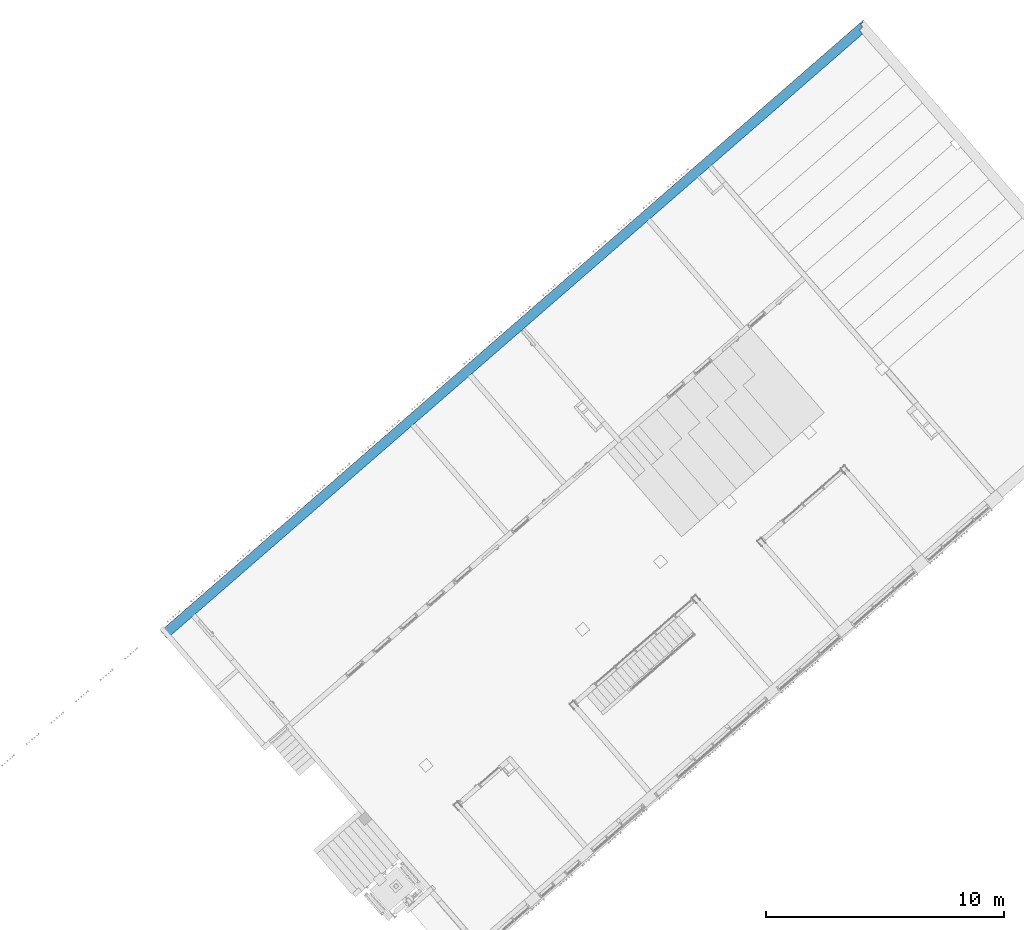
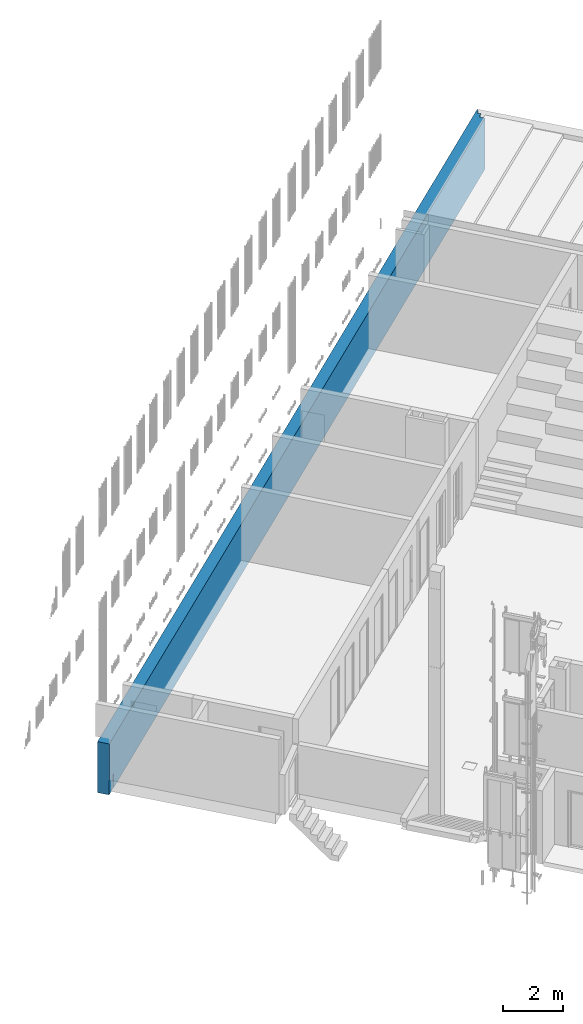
# One storey, part 56 of 124: 1 wall.
"""IFC2X3 building model written with IfcOpenShell, lengths in millimetres."""

from ifc_helpers import new_model, entity, si_unit, converted_unit, derived_unit, money_unit, direction, frame, origin_with_axes, place, context, subcontext, project, spatial, faceted_brep, material, material_list, type_object, element, save


model = new_model("IFC2X3")

# Units and contexts
model_context = context("Model", 3, precision=1e-05, world=origin_with_axes(), true_north=direction((0.0, 1.0)))
body_context = subcontext(model_context, "Body", "Model", "MODEL_VIEW")
ifc_project = project(units=[si_unit("LENGTHUNIT", "METRE", prefix="MILLI"), si_unit("AREAUNIT", "SQUARE_METRE"), si_unit("VOLUMEUNIT", "CUBIC_METRE"), converted_unit("PLANEANGLEUNIT", "DEGREE", entity("IfcPlaneAngleMeasure", 0.0174532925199), si_unit("PLANEANGLEUNIT", "RADIAN"), dimensions=[0, 0, 0, 0, 0, 0, 0]), si_unit("SOLIDANGLEUNIT", "STERADIAN"), money_unit("EUR"), converted_unit("TIMEUNIT", "Year", entity("IfcTimeMeasure", 31556926.0), si_unit("TIMEUNIT", "SECOND"), dimensions=[0, 0, 1, 0, 0, 0, 0]), si_unit("MASSUNIT", "GRAM", prefix="KILO"), si_unit("THERMODYNAMICTEMPERATUREUNIT", "DEGREE_CELSIUS"), si_unit("LUMINOUSINTENSITYUNIT", "LUMEN"), si_unit("ENERGYUNIT", "JOULE", prefix="MEGA"), derived_unit("THERMALCONDUCTANCEUNIT", [(si_unit("POWERUNIT", "WATT"), 1), (si_unit("LENGTHUNIT", "METRE"), -1), (si_unit("THERMODYNAMICTEMPERATUREUNIT", "KELVIN"), -1)]), derived_unit("SPECIFICHEATCAPACITYUNIT", [(si_unit("ENERGYUNIT", "JOULE"), 1), (si_unit("MASSUNIT", "GRAM", prefix="KILO"), -1), (si_unit("THERMODYNAMICTEMPERATUREUNIT", "KELVIN"), -1)]), derived_unit("MASSDENSITYUNIT", [(si_unit("MASSUNIT", "GRAM", prefix="KILO"), 1), (si_unit("VOLUMEUNIT", "CUBIC_METRE"), -1)])], contexts=[model_context])

# Site, building, storey
site_placement = place(None, origin_with_axes())
site = spatial("IfcSite", under=ifc_project, at=site_placement, Name="Site", CompositionType="ELEMENT")
building_placement = place(site_placement, origin_with_axes())
building = spatial("IfcBuilding", under=site, at=building_placement, Name="Building", CompositionType="ELEMENT")
storey_placement = place(building_placement, frame((0.0, 0.0, -1615.0), z_axis=(0.0, 0.0, 1.0), x_axis=(1.0, 0.0, 0.0)))
storey = spatial("IfcBuildingStorey", under=building, at=storey_placement, Name="0  korrus", CompositionType="ELEMENT", Elevation=-1615.0)

# Wall
ifc_material_1 = material(Name="Krohv - Lubjakivi")
ifc_material_2 = material(Name="Raudbetoon - Konstruktsioon")
ifc_material_3 = material(Name="Soojustus - Plastik Kõva")
ifc_material_4 = material(Name="Membraan - Veekindel")
ifc_material_list = material_list([ifc_material_1, ifc_material_2, ifc_material_3, ifc_material_3, ifc_material_4, ifc_material_4])
wall_type = type_object("IfcWallType", Name="VS-03", PredefinedType="NOTDEFINED")
wall_placement = place(storey_placement, frame((166702.429594, 114256.970218, -620.0), z_axis=(0.0, 0.0, 1.0), x_axis=(-0.75470958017, -0.656059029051, 0.0)))
element("IfcWall", 1, at=wall_placement, inside=storey, type_object=wall_type, material=ifc_material_list, Name="VS-03", context=body_context, shape_type="Brep", body=[
    faceted_brep([(38700.0000039, 1.02507726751e-05, 600.0), (38690.0000041, 1.02584039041e-05, 600.0), (38280.0000041, 0.0, 600.0), (38280.0000041, 0.0, 0.0), (0.0, 0.0, 0.0), (0.0, 0.0, 2084.99999837), (38700.0000039, 0.0, 2084.99999837), (38690.0000041, -9.99999999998, 600.0), (38700.0000039, -9.99999999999, 600.0), (38280.0000041, -9.99999999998, 600.0), (38280.0000041, -10.0, 0.0), (-6.25277607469e-10, -10.0, 0.0), (-6.25277607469e-10, -10.0, 2084.99999837), (38700.0000039, -10.0, 2084.99999837)], [[[0, 1, 2, 3, 4, 5, 6]], [[7, 1, 0, 8]], [[1, 7, 9, 2]], [[3, 2, 9, 10]], [[3, 10, 11, 4]], [[11, 12, 5, 4]], [[12, 13, 6, 5]], [[8, 0, 6, 13]], [[7, 8, 13, 12, 11, 10, 9]]]),
    faceted_brep([(-10.0000000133, -210.0, 2084.99999837), (38700.0000039, -210.0, 2084.99999837), (38700.0000039, -9.99999999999, 2084.99999837), (-10.0000000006, -10.0, 2084.99999837), (-10.0000000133, -210.0, 0.0), (38700.0000039, -210.0, 0.0), (38700.0000039, -9.99999999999, 0.0), (-10.0000000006, -10.0, 0.0)], [[[0, 1, 2, 3]], [[4, 5, 1, 0]], [[2, 1, 5, 6]], [[3, 2, 6, 7]], [[4, 0, 3, 7]], [[7, 6, 5, 4]]]),
    faceted_brep([(-210.000000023, -360.0, 2084.99999837), (38700.0000039, -360.0, 2084.99999837), (38700.0000039, -210.0, 2084.99999837), (-210.000000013, -210.0, 2084.99999837), (-210.000000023, -360.0, 0.0), (38700.0000039, -360.0, 0.0), (38700.0000039, -210.0, 0.0), (-210.000000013, -210.0, 0.0)], [[[0, 1, 2, 3]], [[4, 5, 1, 0]], [[2, 1, 5, 6]], [[3, 2, 6, 7]], [[4, 0, 3, 7]], [[7, 6, 5, 4]]]),
    faceted_brep([(38700.0000039, -400.000001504, 600.0), (38700.0000039, -409.999999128, 600.0), (38180.0000041, -409.999999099, 600.0), (38180.0000041, -400.000001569, 600.0), (38700.0000039, -399.999999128, 0.0), (38700.0000039, -360.0, 0.0), (38700.0000039, -360.0, 2084.99999837), (38700.0000039, -410.0, 2084.99999837), (-360.000000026, -410.0, 2084.99999837), (-360.000000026, -410.0, 0.0), (38180.0000041, -409.999999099, 0.0), (38180.0000041, -399.999999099, 0.0), (-360.000000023, -360.0, 0.0), (-360.000000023, -360.0, 2084.99999837)], [[[0, 1, 2, 3]], [[1, 0, 4, 5, 6, 7]], [[2, 1, 7, 8, 9, 10]], [[3, 2, 10, 11]], [[11, 4, 0, 3]], [[10, 9, 12, 5, 4, 11]], [[13, 6, 5, 12]], [[8, 7, 6, 13]], [[9, 8, 13, 12]]]),
    faceted_brep([(-410.000000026, -415.0, 2084.99999837), (38700.0000039, -415.0, 2084.99999837), (38700.0000039, -410.0, 2084.99999837), (-410.000000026, -410.0, 2084.99999837), (-410.000000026, -415.0, 0.0), (38700.0000039, -415.0, 0.0), (38700.0000039, -410.0, 0.0), (-410.000000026, -410.0, 0.0)], [[[0, 1, 2, 3]], [[4, 5, 1, 0]], [[2, 1, 5, 6]], [[3, 2, 6, 7]], [[4, 0, 3, 7]], [[7, 6, 5, 4]]]),
    faceted_brep([(-415.000000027, -420.0, 2084.99999837), (38700.0000039, -420.0, 2084.99999837), (38700.0000039, -415.0, 2084.99999837), (-415.000000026, -415.0, 2084.99999837), (-415.000000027, -420.0, 0.0), (38700.0000039, -420.0, 0.0), (38700.0000039, -415.0, 0.0), (-415.000000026, -415.0, 0.0)], [[[0, 1, 2, 3]], [[4, 5, 1, 0]], [[2, 1, 5, 6]], [[3, 2, 6, 7]], [[4, 0, 3, 7]], [[7, 6, 5, 4]]]),
])

save(model, "model.ifc")
